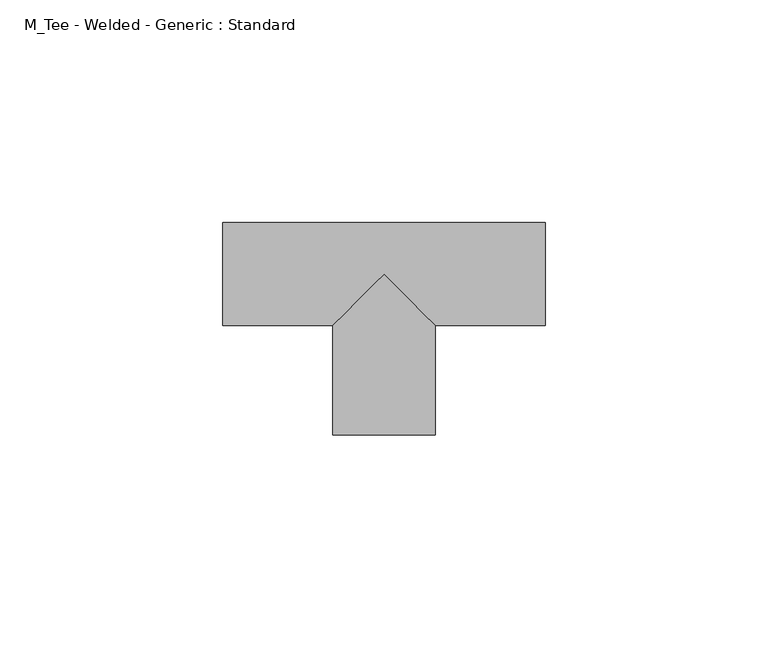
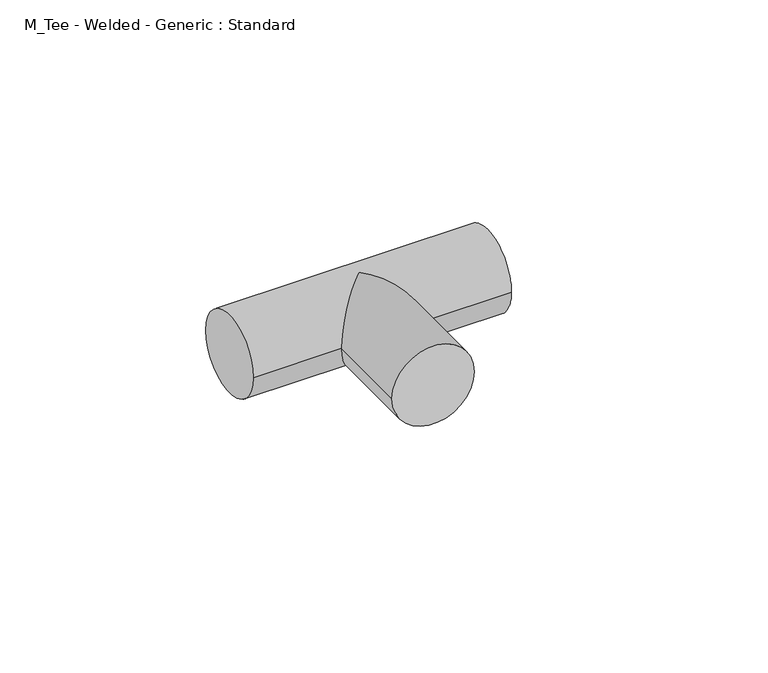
"""IFC4 building model written with IfcOpenShell, lengths in millimetres: pipe fitting geometry, M_Tee - Welded - Generic : Standard."""

import ifcopenshell
import ifcopenshell.guid

model = None  # the IFC model being written
_history = None  # IfcOwnerHistory: only IFC2X3 demands one
_inside = {}  # id of a spatial element -> (the spatial element, [elements in it])
_under = {}  # id of a project, library or spatial element -> (it, [spatial elements below it])
_declared = {}  # id of a project -> (the project, [libraries it declares])
_typed = {}  # id of a type object -> (the type object, [elements of that type])
_made_of = {}  # id of a material, layer set ... -> (it, [elements and type objects made of it])


def new_model(schema):
    """Start an empty IFC model of exactly this schema.

    Asked for "IFC4X3", IfcOpenShell would pick the latest addendum, in which some entities
    have other attributes; the version numbers below select the first issue.
    IFC2X3 requires an IfcOwnerHistory on every rooted entity: one is made here for all.
    """
    global model, _history
    if schema == "IFC4X3":
        model = ifcopenshell.file(schema_version=(4, 3, 0, 0))
    else:
        model = ifcopenshell.file(schema=schema)
    _inside.clear()
    _under.clear()
    _declared.clear()
    _typed.clear()
    _made_of.clear()
    _history = None
    if model.schema == "IFC2X3":
        org = make("IfcOrganization", Name="unknown")
        user = make(
            "IfcPersonAndOrganization",
            ThePerson=make("IfcPerson", FamilyName="unknown"),
            TheOrganization=org,
        )
        app = make(
            "IfcApplication",
            ApplicationDeveloper=org,
            Version="unknown",
            ApplicationFullName="unknown",
            ApplicationIdentifier="unknown",
        )
        _history = make(
            "IfcOwnerHistory",
            OwningUser=user,
            OwningApplication=app,
            ChangeAction="ADDED",
            CreationDate=0,
        )
    return model


def make(cls, **values):
    """One entity of the class cls with the attributes given. An attribute that is None is left unset."""
    return model.create_entity(
        cls, **{name: value for name, value in values.items() if value is not None}
    )


def rooted(cls, **values):
    """An entity with a GlobalId (a new one), such as an element, a storey or a relation."""
    return make(cls, GlobalId=ifcopenshell.guid.new(), OwnerHistory=_history, **values)


def si_unit(unit_type, name, prefix=None):
    """IfcSIUnit, for example si_unit("LENGTHUNIT", "METRE", prefix="MILLI")."""
    return make("IfcSIUnit", UnitType=unit_type, Prefix=prefix, Name=name)


def assignment(units):
    """IfcUnitAssignment: the units of a project."""
    return None if units is None else make("IfcUnitAssignment", Units=units)


def point(xyz):
    """IfcCartesianPoint."""
    return None if xyz is None else make("IfcCartesianPoint", Coordinates=xyz)


def direction(xyz):
    """IfcDirection."""
    return None if xyz is None else make("IfcDirection", DirectionRatios=xyz)


def frame(location, z_axis=None, x_axis=None):
    """IfcAxis2Placement3D, a coordinate frame: its origin and axes. An axis left out is left unset."""
    return make(
        "IfcAxis2Placement3D",
        Location=point(location),
        Axis=direction(z_axis),
        RefDirection=direction(x_axis),
    )


def origin():
    """The frame at (0, 0, 0) with its axes left unset."""
    return frame((0.0, 0.0, 0.0))


def place(relative_to, where):
    """IfcLocalPlacement: puts the frame where relative to a parent placement (None: the world)."""
    return make(
        "IfcLocalPlacement", PlacementRelTo=relative_to, RelativePlacement=where
    )


def context(
    kind, dimensions, precision=None, world=None, true_north=None, identifier=None
):
    """IfcGeometricRepresentationContext, for example the 3D "Model" context."""
    return make(
        "IfcGeometricRepresentationContext",
        ContextIdentifier=identifier,
        ContextType=kind,
        CoordinateSpaceDimension=dimensions,
        Precision=precision,
        WorldCoordinateSystem=world,
        TrueNorth=true_north,
    )


def project(units=None, contexts=None):
    """IfcProject with its units and contexts."""
    return rooted(
        "IfcProject",
        Name="project",
        RepresentationContexts=contexts,
        UnitsInContext=assignment(units),
    )


def spatial(cls, under=None, at=None, **own):
    """A site, building, storey or space (cls), placed at a placement, below another one or the project."""
    s = rooted(cls, ObjectPlacement=at, **own)
    if under is not None:
        _under.setdefault(under.id(), (under, []))[1].append(s)
    return s


def circle_curve(where, radius):
    """IfcCircle in the frame where."""
    return make("IfcCircle", Position=where, Radius=radius)


def ellipse_curve(where, semi_axis1, semi_axis2):
    """IfcEllipse in the frame where."""
    return make(
        "IfcEllipse", Position=where, SemiAxis1=semi_axis1, SemiAxis2=semi_axis2
    )


def shape(context_of_items, identifier, shape_type, items):
    """IfcShapeRepresentation: the items that make up one representation, for example the "Body"."""
    return make(
        "IfcShapeRepresentation",
        ContextOfItems=context_of_items,
        RepresentationIdentifier=identifier,
        RepresentationType=shape_type,
        Items=items,
    )


def source(mapping_origin, context_of_items, identifier, shape_type, items):
    """IfcRepresentationMap: a shape defined once, which mapped items show again and again."""
    return make(
        "IfcRepresentationMap",
        MappingOrigin=mapping_origin,
        MappedRepresentation=shape(context_of_items, identifier, shape_type, items),
    )


def transform(
    local_origin,
    x_axis=None,
    y_axis=None,
    z_axis=None,
    scale=None,
    scale2=None,
    scale3=None,
    uniform=True,
):
    """IfcCartesianTransformationOperator3D, or its non-uniform kind. x_axis, y_axis, z_axis: its Axis1, 2, 3."""
    if uniform:
        return make(
            "IfcCartesianTransformationOperator3D",
            Axis1=direction(x_axis),
            Axis2=direction(y_axis),
            LocalOrigin=point(local_origin),
            Scale=scale,
            Axis3=direction(z_axis),
        )
    return make(
        "IfcCartesianTransformationOperator3DnonUniform",
        Axis1=direction(x_axis),
        Axis2=direction(y_axis),
        LocalOrigin=point(local_origin),
        Scale=scale,
        Axis3=direction(z_axis),
        Scale2=scale2,
        Scale3=scale3,
    )


def mapped(mapping_source, mapping_target):
    """IfcMappedItem: shows the shape of a source again, moved by a transform."""
    return make(
        "IfcMappedItem", MappingSource=mapping_source, MappingTarget=mapping_target
    )


def made_of(thing, what):
    """Note that an element or type object is made of a material, layer set ...; save() writes the relation."""
    if what is not None:
        _made_of.setdefault(what.id(), (what, []))[1].append(thing)
    return thing


def element(
    cls,
    number,
    at=None,
    inside=None,
    cuts=None,
    type_object=None,
    material=None,
    context=None,
    identifier="Body",
    shape_type=None,
    held_by="IfcProductDefinitionShape",
    body=None,
    shapes=None,
    **own,
):
    """One element of the class cls, such as IfcWall. Its Tag is "e" and its number.

    at: its placement. inside: the storey or other place that contains it. cuts: it is an
    opening in that element (IfcRelVoidsElement). A single representation is given by context,
    identifier, shape_type and body (its items); several are given by shapes. held_by: the class
    of the entity that holds the representations. save() writes the other relations.
    """
    e = rooted(cls, Tag="e%d" % number, ObjectPlacement=at, **own)
    if body is not None:
        shapes = [shape(context, identifier, shape_type, body)]
    if shapes is not None:
        e.Representation = make(held_by, Representations=shapes)
    if inside is not None:
        _inside.setdefault(inside.id(), (inside, []))[1].append(e)
    if cuts is not None:
        rooted(
            "IfcRelVoidsElement", RelatingBuildingElement=cuts, RelatedOpeningElement=e
        )
    if type_object is not None:
        _typed.setdefault(type_object.id(), (type_object, []))[1].append(e)
    return made_of(e, material)


def aggregate(whole, parts):
    """IfcRelAggregates: a whole, such as a stair, and the parts it consists of."""
    return rooted("IfcRelAggregates", RelatingObject=whole, RelatedObjects=parts)


def save(model, path):
    """Write the relations noted so far, then the file.

    IfcRelAggregates (storeys below a building ...), IfcRelContainedInSpatialStructure (elements
    in a storey), IfcRelDefinesByType, IfcRelAssociatesMaterial and IfcRelDeclares: one each for
    every whole, place, type object, material and project.
    """
    for whole, parts in _under.values():
        aggregate(whole, parts)
    for where, things in _inside.values():
        rooted(
            "IfcRelContainedInSpatialStructure",
            RelatedElements=things,
            RelatingStructure=where,
        )
    for kind, things in _typed.values():
        rooted("IfcRelDefinesByType", RelatedObjects=things, RelatingType=kind)
    for what, things in _made_of.values():
        rooted("IfcRelAssociatesMaterial", RelatedObjects=things, RelatingMaterial=what)
    for by, libraries in _declared.values():
        rooted("IfcRelDeclares", RelatingContext=by, RelatedDefinitions=libraries)
    model.write(path)


def plane_surface(at):
    """IfcPlane: the flat surface through the origin of the frame at, square to its z axis."""
    return make("IfcPlane", Position=at)


def cylinder_surface(at, radius):
    """IfcCylindricalSurface: all points at the distance radius from the z axis of the frame at."""
    return make("IfcCylindricalSurface", Position=at, Radius=radius)


def advanced_brep(points, edges, surfaces, faces):
    """IfcAdvancedBrep: a solid bounded by faces that lie on surfaces and meet in shared edges.

    An edge is (start, end): straight between two places in points (the first is 0);
    or (start, end, curve); or (start, end, curve, False) where it runs against its curve.
    A face is (place in surfaces, loops), or (place, loops, False) where it looks against
    its surface's normal. A loop lists edges by number (the first is 1), with a minus sign
    where the edge is run from its end to its start. The first loop is the outer one.
    """
    corners = [point(p) for p in points]
    vertices = [make("IfcVertexPoint", VertexGeometry=c) for c in corners]
    made = []
    for start, end, *more in edges:
        made.append(
            make(
                "IfcEdgeCurve",
                EdgeStart=vertices[start],
                EdgeEnd=vertices[end],
                EdgeGeometry=more[0] if more else make("IfcPolyline", Points=[corners[start], corners[end]]),
                SameSense=more[1] if len(more) > 1 else True,
            )
        )
    hull = []
    for where, loops, *sense in faces:
        bounds = []
        for j, loop in enumerate(loops):
            ring = [make("IfcOrientedEdge", EdgeElement=made[abs(k) - 1], Orientation=k > 0) for k in loop]
            bounds.append(
                make(
                    "IfcFaceOuterBound" if j == 0 else "IfcFaceBound",
                    Bound=make("IfcEdgeLoop", EdgeList=ring),
                    Orientation=True,
                )
            )
        hull.append(make("IfcAdvancedFace", Bounds=bounds, FaceSurface=surfaces[where], SameSense=sense[0] if sense else True))
    return make("IfcAdvancedBrep", Outer=make("IfcClosedShell", CfsFaces=hull))


def m_tee_welded_generic_standard_d48cdf89(model_context):
    return source(origin(), model_context, "Body", "AdvancedBrep", [
        advanced_brep(
        [(-36.2029375, -11.5589844, 0.0), (-36.2029375, 11.5589844, 0.0), (36.2029375, -11.5589844, 0.0), (36.2029375, 11.5589844, 0.0), (-11.5589844, -11.5589844, 0.0), (0.0, 0.0, 11.5589844), (11.5589844, -11.5589844, 0.0), (0.0, 0.0, -11.5589844), (-11.5589844, -36.2029375, 0.0), (11.5589844, -36.2029375, 0.0)],
        [
            (0, 1, circle_curve(frame((-36.2029375, 0.0, 0.0), z_axis=(-1.0, 0.0, 0.0), x_axis=(0.0, 1.0, 0.0)), 11.5589844)),
            (1, 0, circle_curve(frame((-36.2029375, 0.0, 0.0), z_axis=(-1.0, 0.0, 0.0), x_axis=(0.0, 1.0, 0.0)), 11.5589844)),
            (2, 3, circle_curve(frame((36.2029375, 0.0, 0.0), z_axis=(1.0, 0.0, 0.0), x_axis=(0.0, 1.0, 0.0)), 11.5589844)),
            (3, 2, circle_curve(frame((36.2029375, 0.0, 0.0), z_axis=(1.0, 0.0, 0.0), x_axis=(0.0, 1.0, 0.0)), 11.5589844)),
            (0, 4),
            (4, 5, ellipse_curve(frame((0.0, 0.0, 0.0), z_axis=(-0.707106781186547, 0.7071067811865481, 0.0), x_axis=(-0.707106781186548, -0.707106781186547, 0.0)), 16.3468725, 11.5589844)),
            (5, 6, ellipse_curve(frame((0.0, 0.0, 0.0), z_axis=(0.707106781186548, 0.7071067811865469, 0.0), x_axis=(-0.707106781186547, 0.707106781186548, 0.0)), 16.3468725, 11.5589844)),
            (6, 2),
            (3, 1),
            (6, 7, ellipse_curve(frame((0.0, 0.0, 0.0), z_axis=(0.707106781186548, 0.7071067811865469, 0.0), x_axis=(-0.707106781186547, 0.707106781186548, 0.0)), 16.3468725, 11.5589844)),
            (7, 4, ellipse_curve(frame((0.0, 0.0, 0.0), z_axis=(-0.707106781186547, 0.7071067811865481, 0.0), x_axis=(-0.707106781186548, -0.707106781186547, 0.0)), 16.3468725, 11.5589844)),
            (8, 9, circle_curve(frame((0.0, -36.2029375, 0.0), z_axis=(0.0, -1.0, 0.0), x_axis=(1.0, 0.0, 0.0)), 11.5589844)),
            (9, 8, circle_curve(frame((0.0, -36.2029375, 0.0), z_axis=(0.0, -1.0, 0.0), x_axis=(1.0, 0.0, 0.0)), 11.5589844)),
            (9, 6),
            (4, 8),
        ],
        [
            plane_surface(frame((-36.2029375, 0.0, 0.0), z_axis=(-1.0, 0.0, 0.0), x_axis=(0.0, 0.0, 1.0))),
            plane_surface(frame((36.2029375, 0.0, 0.0), z_axis=(1.0, 0.0, 0.0), x_axis=(0.0, 0.0, 1.0))),
            cylinder_surface(frame((-36.2029375, 0.0, 0.0), z_axis=(-1.0, 0.0, 0.0), x_axis=(0.0, 1.0, 0.0)), 11.5589844),
            plane_surface(frame((0.0, -36.2029375, 0.0), z_axis=(0.0, -1.0, 0.0), x_axis=(0.0, 0.0, 1.0))),
            cylinder_surface(frame((0.0, 0.0, 0.0), z_axis=(0.0, 1.0, 0.0), x_axis=(1.0, 0.0, 0.0)), 11.5589844),
        ],
        [
            (0, [[1, 2]]),
            (1, [[3, 4]]),
            (2, [[-1, 5, 6, 7, 8, -4, 9]]),
            (2, [[-2, -9, -3, -8, 10, 11, -5]]),
            (3, [[12, 13]]),
            (4, [[-13, 14, -7, -6, 15]]),
            (4, [[-12, -15, -11, -10, -14]]),
        ],
    ),
    ])


if __name__ == "__main__":
    model = new_model("IFC4")
    model_context = context("Model", 3, world=origin())
    ifc_project = project(units=[si_unit("LENGTHUNIT", "METRE", prefix="MILLI")], contexts=[model_context])
    site = spatial("IfcSite", under=ifc_project)
    building = spatial("IfcBuilding", under=site)
    placement = place(None, origin())
    m_tee_welded_generic_standard_shape = m_tee_welded_generic_standard_d48cdf89(model_context)
    element("IfcPipeFitting", 1, ObjectType="M_Tee - Welded - Generic : Standard", at=placement, inside=building, context=model_context, shape_type="MappedRepresentation", body=[
        mapped(m_tee_welded_generic_standard_shape, transform((0.0, 0.0, 0.0), x_axis=(1.0, 0.0, 0.0), y_axis=(0.0, 1.0, 0.0), z_axis=(0.0, 0.0, 1.0))),
    ])
    save(model, "model.ifc")
